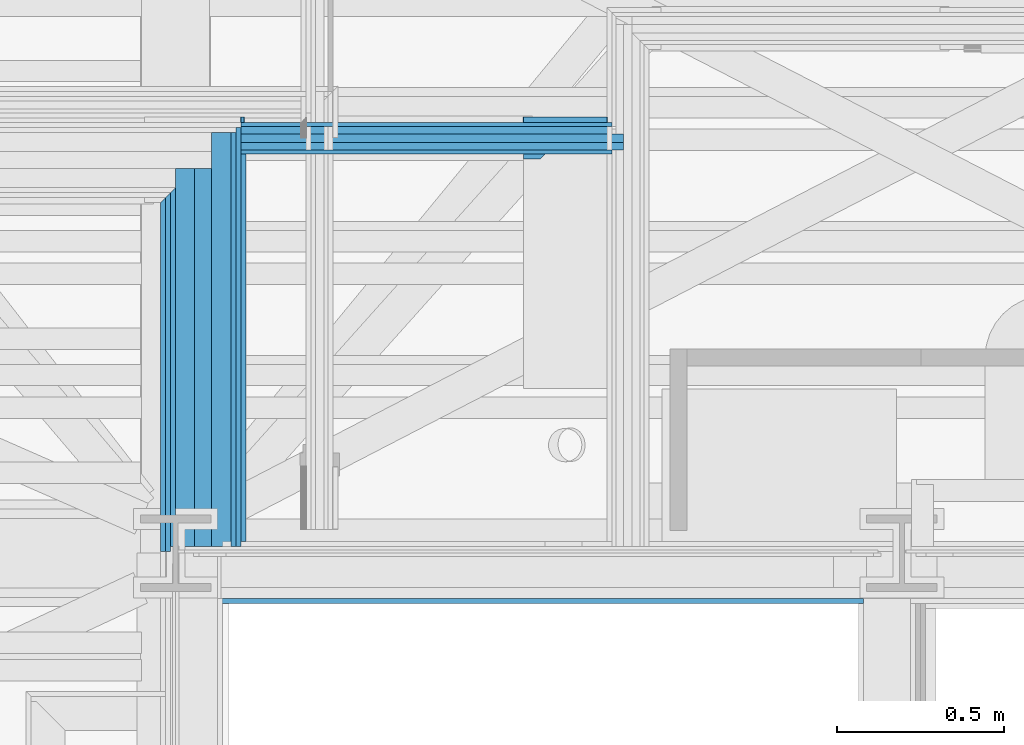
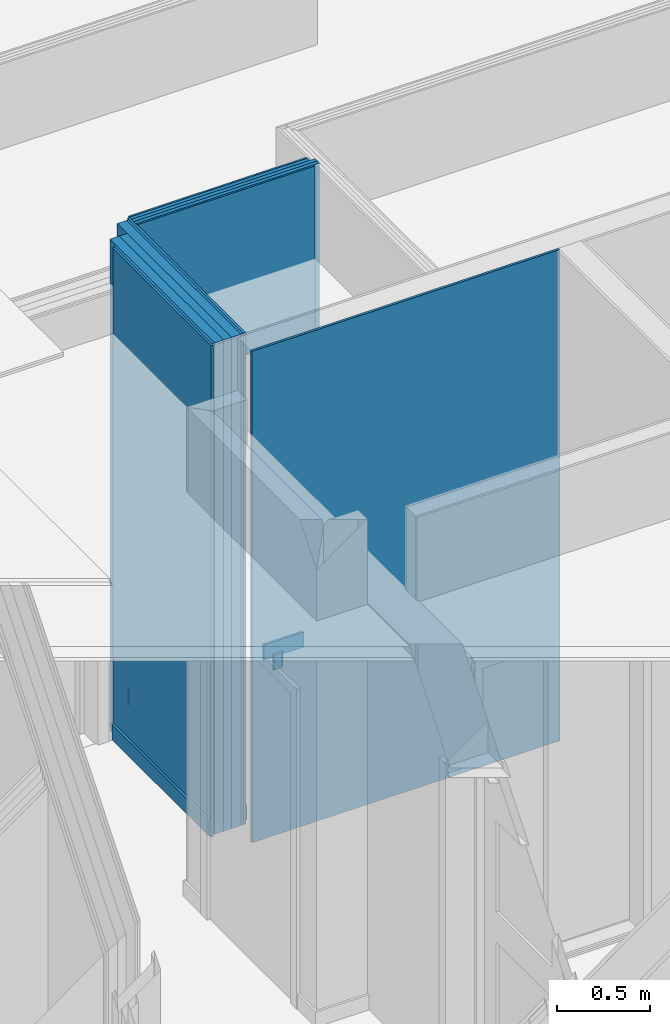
# One storey, part 43 of 183: 17 building element parts, 1 opening, 3 elements without a shape of their own.
"""IFC2X3 building model written with IfcOpenShell, lengths in metres."""

import ifcopenshell
import ifcopenshell.guid

model = None  # the IFC model being written
_history = None  # IfcOwnerHistory: only IFC2X3 demands one
_inside = {}  # id of a spatial element -> (the spatial element, [elements in it])
_under = {}  # id of a project, library or spatial element -> (it, [spatial elements below it])
_declared = {}  # id of a project -> (the project, [libraries it declares])
_typed = {}  # id of a type object -> (the type object, [elements of that type])
_made_of = {}  # id of a material, layer set ... -> (it, [elements and type objects made of it])


def new_model(schema):
    """Start an empty IFC model of exactly this schema.

    Asked for "IFC4X3", IfcOpenShell would pick the latest addendum, in which some entities
    have other attributes; the version numbers below select the first issue.
    IFC2X3 requires an IfcOwnerHistory on every rooted entity: one is made here for all.
    """
    global model, _history
    if schema == "IFC4X3":
        model = ifcopenshell.file(schema_version=(4, 3, 0, 0))
    else:
        model = ifcopenshell.file(schema=schema)
    _inside.clear()
    _under.clear()
    _declared.clear()
    _typed.clear()
    _made_of.clear()
    _history = None
    if model.schema == "IFC2X3":
        org = make("IfcOrganization", Name="unknown")
        user = make(
            "IfcPersonAndOrganization",
            ThePerson=make("IfcPerson", FamilyName="unknown"),
            TheOrganization=org,
        )
        app = make(
            "IfcApplication",
            ApplicationDeveloper=org,
            Version="unknown",
            ApplicationFullName="unknown",
            ApplicationIdentifier="unknown",
        )
        _history = make(
            "IfcOwnerHistory",
            OwningUser=user,
            OwningApplication=app,
            ChangeAction="ADDED",
            CreationDate=0,
        )
    return model


def make(cls, **values):
    """One entity of the class cls with the attributes given. An attribute that is None is left unset."""
    return model.create_entity(
        cls, **{name: value for name, value in values.items() if value is not None}
    )


def entity(cls, *values):
    """Any entity or typed value of the class cls, its attributes in the order of the schema. None: left unset."""
    e = model.create_entity(cls)
    for i, value in enumerate(values):
        if value is not None:
            e[i] = value
    return e


def rooted(cls, **values):
    """An entity with a GlobalId (a new one), such as an element, a storey or a relation."""
    return make(cls, GlobalId=ifcopenshell.guid.new(), OwnerHistory=_history, **values)


def si_unit(unit_type, name, prefix=None):
    """IfcSIUnit, for example si_unit("LENGTHUNIT", "METRE", prefix="MILLI")."""
    return make("IfcSIUnit", UnitType=unit_type, Prefix=prefix, Name=name)


def converted_unit(unit_type, name, factor, base, dimensions=None, offset=None):
    """IfcConversionBasedUnit, such as the inch: factor (a typed value) times the base unit."""
    return make(
        "IfcConversionBasedUnit"
        if offset is None
        else "IfcConversionBasedUnitWithOffset",
        ConversionOffset=offset,
        Dimensions=None
        if dimensions is None
        else entity("IfcDimensionalExponents", *dimensions),
        UnitType=unit_type,
        Name=name,
        ConversionFactor=make(
            "IfcMeasureWithUnit", ValueComponent=factor, UnitComponent=base
        ),
    )


def derived_unit(unit_type, elements):
    """IfcDerivedUnit: a product of units, each with its exponent."""
    return make(
        "IfcDerivedUnit",
        Elements=[
            make("IfcDerivedUnitElement", Unit=unit, Exponent=power)
            for unit, power in elements
        ],
        UnitType=unit_type,
    )


def money_unit(currency):
    """IfcMonetaryUnit."""
    return make("IfcMonetaryUnit", Currency=currency)


def assignment(units):
    """IfcUnitAssignment: the units of a project."""
    return None if units is None else make("IfcUnitAssignment", Units=units)


def point(xyz):
    """IfcCartesianPoint."""
    return None if xyz is None else make("IfcCartesianPoint", Coordinates=xyz)


def direction(xyz):
    """IfcDirection."""
    return None if xyz is None else make("IfcDirection", DirectionRatios=xyz)


def frame(location, z_axis=None, x_axis=None):
    """IfcAxis2Placement3D, a coordinate frame: its origin and axes. An axis left out is left unset."""
    return make(
        "IfcAxis2Placement3D",
        Location=point(location),
        Axis=direction(z_axis),
        RefDirection=direction(x_axis),
    )


def frame_2d(location, x_axis=None):
    """IfcAxis2Placement2D, a coordinate frame in the plane: its origin and x axis."""
    return make(
        "IfcAxis2Placement2D", Location=point(location), RefDirection=direction(x_axis)
    )


def origin_with_axes():
    """The frame at (0, 0, 0) with the z axis (0, 0, 1) and the x axis (1, 0, 0) written out."""
    return frame((0.0, 0.0, 0.0), z_axis=(0.0, 0.0, 1.0), x_axis=(1.0, 0.0, 0.0))


def place(relative_to, where):
    """IfcLocalPlacement: puts the frame where relative to a parent placement (None: the world)."""
    return make(
        "IfcLocalPlacement", PlacementRelTo=relative_to, RelativePlacement=where
    )


def context(
    kind, dimensions, precision=None, world=None, true_north=None, identifier=None
):
    """IfcGeometricRepresentationContext, for example the 3D "Model" context."""
    return make(
        "IfcGeometricRepresentationContext",
        ContextIdentifier=identifier,
        ContextType=kind,
        CoordinateSpaceDimension=dimensions,
        Precision=precision,
        WorldCoordinateSystem=world,
        TrueNorth=true_north,
    )


def subcontext(parent, identifier, kind, view, scale=None):
    """IfcGeometricRepresentationSubContext, for example "Body" below "Model"."""
    return make(
        "IfcGeometricRepresentationSubContext",
        ContextIdentifier=identifier,
        ContextType=kind,
        ParentContext=parent,
        TargetScale=scale,
        TargetView=view,
    )


def project(units=None, contexts=None):
    """IfcProject with its units and contexts."""
    return rooted(
        "IfcProject",
        Name="project",
        RepresentationContexts=contexts,
        UnitsInContext=assignment(units),
    )


def spatial(cls, under=None, at=None, **own):
    """A site, building, storey or space (cls), placed at a placement, below another one or the project."""
    s = rooted(cls, ObjectPlacement=at, **own)
    if under is not None:
        _under.setdefault(under.id(), (under, []))[1].append(s)
    return s


def polyline(points):
    """IfcPolyline through the points."""
    return make("IfcPolyline", Points=[point(p) for p in points])


def profile(cls, at=None, kind="AREA", **sizes):
    """A parametric profile (cls). Its sizes go by their IFC names, for example OverallWidth=200.0."""
    return make(cls, ProfileType=kind, Position=at, **sizes)


def rectangle(**sizes):
    """IfcRectangleProfileDef."""
    return profile("IfcRectangleProfileDef", **sizes)


def outline(outer, holes=None, kind="AREA"):
    """IfcArbitraryClosedProfileDef: a profile drawn as a closed curve; with holes, ...WithVoids."""
    if holes is None:
        return make("IfcArbitraryClosedProfileDef", ProfileType=kind, OuterCurve=outer)
    return make(
        "IfcArbitraryProfileDefWithVoids",
        ProfileType=kind,
        OuterCurve=outer,
        InnerCurves=holes,
    )


def extrude(swept, where, along, depth):
    """IfcExtrudedAreaSolid: the profile swept, set in the frame where, extruded along a direction by depth."""
    return make(
        "IfcExtrudedAreaSolid",
        SweptArea=swept,
        Position=where,
        ExtrudedDirection=direction(along),
        Depth=depth,
    )


def shape(context_of_items, identifier, shape_type, items):
    """IfcShapeRepresentation: the items that make up one representation, for example the "Body"."""
    return make(
        "IfcShapeRepresentation",
        ContextOfItems=context_of_items,
        RepresentationIdentifier=identifier,
        RepresentationType=shape_type,
        Items=items,
    )


def material(Name=None, Category=None):
    """IfcMaterial."""
    return make("IfcMaterial", Name=Name, Category=Category)


def made_of(thing, what):
    """Note that an element or type object is made of a material, layer set ...; save() writes the relation."""
    if what is not None:
        _made_of.setdefault(what.id(), (what, []))[1].append(thing)
    return thing


def type_object(cls, material=None, **own):
    """A type object (cls), such as IfcWallType, which elements share."""
    return made_of(rooted(cls, **own), material)


def element(
    cls,
    number,
    at=None,
    inside=None,
    cuts=None,
    type_object=None,
    material=None,
    context=None,
    identifier="Body",
    shape_type=None,
    held_by="IfcProductDefinitionShape",
    body=None,
    shapes=None,
    **own,
):
    """One element of the class cls, such as IfcWall. Its Tag is "e" and its number.

    at: its placement. inside: the storey or other place that contains it. cuts: it is an
    opening in that element (IfcRelVoidsElement). A single representation is given by context,
    identifier, shape_type and body (its items); several are given by shapes. held_by: the class
    of the entity that holds the representations. save() writes the other relations.
    """
    e = rooted(cls, Tag="e%d" % number, ObjectPlacement=at, **own)
    if body is not None:
        shapes = [shape(context, identifier, shape_type, body)]
    if shapes is not None:
        e.Representation = make(held_by, Representations=shapes)
    if inside is not None:
        _inside.setdefault(inside.id(), (inside, []))[1].append(e)
    if cuts is not None:
        rooted(
            "IfcRelVoidsElement", RelatingBuildingElement=cuts, RelatedOpeningElement=e
        )
    if type_object is not None:
        _typed.setdefault(type_object.id(), (type_object, []))[1].append(e)
    return made_of(e, material)


def aggregate(whole, parts):
    """IfcRelAggregates: a whole, such as a stair, and the parts it consists of."""
    return rooted("IfcRelAggregates", RelatingObject=whole, RelatedObjects=parts)


def save(model, path):
    """Write the relations noted so far, then the file.

    IfcRelAggregates (storeys below a building ...), IfcRelContainedInSpatialStructure (elements
    in a storey), IfcRelDefinesByType, IfcRelAssociatesMaterial and IfcRelDeclares: one each for
    every whole, place, type object, material and project.
    """
    for whole, parts in _under.values():
        aggregate(whole, parts)
    for where, things in _inside.values():
        rooted(
            "IfcRelContainedInSpatialStructure",
            RelatedElements=things,
            RelatingStructure=where,
        )
    for kind, things in _typed.values():
        rooted("IfcRelDefinesByType", RelatedObjects=things, RelatingType=kind)
    for what, things in _made_of.values():
        rooted("IfcRelAssociatesMaterial", RelatedObjects=things, RelatingMaterial=what)
    for by, libraries in _declared.values():
        rooted("IfcRelDeclares", RelatingContext=by, RelatedDefinitions=libraries)
    model.write(path)


model = new_model("IFC2X3")

# Units and contexts
model_context = context("Model", 3, precision=1e-05, world=origin_with_axes(), true_north=direction((0.0, 1.0)))
body_context = subcontext(model_context, "Body", "Model", "MODEL_VIEW", scale=1.0)
ifc_project = project(units=[si_unit("LENGTHUNIT", "METRE"), si_unit("AREAUNIT", "SQUARE_METRE"), si_unit("VOLUMEUNIT", "CUBIC_METRE"), si_unit("ABSORBEDDOSEUNIT", "GRAY"), si_unit("AMOUNTOFSUBSTANCEUNIT", "MOLE"), si_unit("DOSEEQUIVALENTUNIT", "SIEVERT"), si_unit("ELECTRICCAPACITANCEUNIT", "FARAD"), si_unit("ELECTRICCHARGEUNIT", "COULOMB"), si_unit("ELECTRICCONDUCTANCEUNIT", "SIEMENS"), si_unit("ELECTRICCURRENTUNIT", "AMPERE"), si_unit("ELECTRICRESISTANCEUNIT", "OHM"), si_unit("ELECTRICVOLTAGEUNIT", "VOLT"), si_unit("ENERGYUNIT", "JOULE"), si_unit("FORCEUNIT", "NEWTON"), si_unit("FREQUENCYUNIT", "HERTZ"), si_unit("ILLUMINANCEUNIT", "LUX"), si_unit("INDUCTANCEUNIT", "HENRY"), si_unit("LUMINOUSFLUXUNIT", "LUMEN"), si_unit("LUMINOUSINTENSITYUNIT", "CANDELA"), si_unit("MAGNETICFLUXDENSITYUNIT", "TESLA"), si_unit("MAGNETICFLUXUNIT", "WEBER"), si_unit("MASSUNIT", "GRAM"), converted_unit("PLANEANGLEUNIT", "degree", entity("IfcReal", 0.0174532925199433), si_unit("PLANEANGLEUNIT", "RADIAN"), dimensions=[0, 0, 0, 0, 0, 0, 0]), si_unit("POWERUNIT", "WATT"), si_unit("PRESSUREUNIT", "PASCAL"), si_unit("RADIOACTIVITYUNIT", "BECQUEREL"), si_unit("SOLIDANGLEUNIT", "STERADIAN"), si_unit("THERMODYNAMICTEMPERATUREUNIT", "KELVIN"), si_unit("TIMEUNIT", "SECOND"), derived_unit("ACCELERATIONUNIT", [(si_unit("LENGTHUNIT", "METRE"), 1), (si_unit("TIMEUNIT", "SECOND"), -2)]), derived_unit("ANGULARVELOCITYUNIT", [(converted_unit("PLANEANGLEUNIT", "degree", entity("IfcReal", 0.0174532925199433), si_unit("PLANEANGLEUNIT", "RADIAN"), dimensions=[0, 0, 0, 0, 0, 0, 0]), 1), (si_unit("TIMEUNIT", "SECOND"), -1)]), derived_unit("CURVATUREUNIT", [(converted_unit("PLANEANGLEUNIT", "degree", entity("IfcReal", 0.0174532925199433), si_unit("PLANEANGLEUNIT", "RADIAN"), dimensions=[0, 0, 0, 0, 0, 0, 0]), 1), (si_unit("LENGTHUNIT", "METRE"), -1)]), derived_unit("DYNAMICVISCOSITYUNIT", [(si_unit("PRESSUREUNIT", "PASCAL"), 1), (si_unit("TIMEUNIT", "SECOND"), 1)]), derived_unit("HEATFLUXDENSITYUNIT", [(si_unit("POWERUNIT", "WATT"), 1), (si_unit("LENGTHUNIT", "METRE"), -2)]), derived_unit("HEATINGVALUEUNIT", [(si_unit("ENERGYUNIT", "JOULE"), 1), (si_unit("MASSUNIT", "GRAM"), -1)]), derived_unit("INTEGERCOUNTRATEUNIT", [(si_unit("TIMEUNIT", "SECOND"), -1)]), derived_unit("IONCONCENTRATIONUNIT", [(si_unit("MASSUNIT", "GRAM"), 1), (si_unit("VOLUMEUNIT", "CUBIC_METRE"), -1)]), derived_unit("ISOTHERMALMOISTURECAPACITYUNIT", [(si_unit("VOLUMEUNIT", "CUBIC_METRE"), 1), (si_unit("MASSUNIT", "GRAM"), -1)]), derived_unit("KINEMATICVISCOSITYUNIT", [(si_unit("AREAUNIT", "SQUARE_METRE"), 1), (si_unit("TIMEUNIT", "SECOND"), -1)]), derived_unit("LINEARFORCEUNIT", [(si_unit("FORCEUNIT", "NEWTON"), 1), (si_unit("LENGTHUNIT", "METRE"), -1)]), derived_unit("LINEARMOMENTUNIT", [(si_unit("FORCEUNIT", "NEWTON"), 1), (si_unit("LENGTHUNIT", "METRE"), -1)]), derived_unit("LINEARSTIFFNESSUNIT", [(si_unit("FORCEUNIT", "NEWTON"), 1), (si_unit("LENGTHUNIT", "METRE"), -1)]), derived_unit("LINEARVELOCITYUNIT", [(si_unit("LENGTHUNIT", "METRE"), 1), (si_unit("TIMEUNIT", "SECOND"), -1)]), derived_unit("LUMINOUSINTENSITYDISTRIBUTIONUNIT", [(si_unit("LUMINOUSINTENSITYUNIT", "CANDELA"), 1), (si_unit("LUMINOUSFLUXUNIT", "LUMEN"), -1)]), derived_unit("MASSDENSITYUNIT", [(si_unit("MASSUNIT", "GRAM"), 1), (si_unit("VOLUMEUNIT", "CUBIC_METRE"), -1)]), derived_unit("MASSFLOWRATEUNIT", [(si_unit("MASSUNIT", "GRAM"), 1), (si_unit("TIMEUNIT", "SECOND"), -1)]), derived_unit("MASSPERLENGTHUNIT", [(si_unit("MASSUNIT", "GRAM"), 1), (si_unit("LENGTHUNIT", "METRE"), -1)]), derived_unit("MODULUSOFELASTICITYUNIT", [(si_unit("FORCEUNIT", "NEWTON"), 1), (si_unit("AREAUNIT", "SQUARE_METRE"), -1)]), derived_unit("MODULUSOFLINEARSUBGRADEREACTIONUNIT", [(si_unit("FORCEUNIT", "NEWTON"), 1), (si_unit("LENGTHUNIT", "METRE"), -2)]), derived_unit("MODULUSOFROTATIONALSUBGRADEREACTIONUNIT", [(si_unit("FORCEUNIT", "NEWTON"), 1), (si_unit("LENGTHUNIT", "METRE"), 1)]), derived_unit("MODULUSOFSUBGRADEREACTIONUNIT", [(si_unit("FORCEUNIT", "NEWTON"), 1), (si_unit("VOLUMEUNIT", "CUBIC_METRE"), -1)]), derived_unit("MOISTUREDIFFUSIVITYUNIT", [(si_unit("VOLUMEUNIT", "CUBIC_METRE"), 1), (si_unit("TIMEUNIT", "SECOND"), -1)]), derived_unit("MOLECULARWEIGHTUNIT", [(si_unit("MASSUNIT", "GRAM"), 1), (si_unit("AMOUNTOFSUBSTANCEUNIT", "MOLE"), -1)]), derived_unit("PLANARFORCEUNIT", [(si_unit("FORCEUNIT", "NEWTON"), 1), (si_unit("LENGTHUNIT", "METRE"), -2)]), derived_unit("ROTATIONALFREQUENCYUNIT", [(si_unit("TIMEUNIT", "SECOND"), -1)]), derived_unit("ROTATIONALMASSUNIT", [(si_unit("MASSUNIT", "GRAM"), 1), (si_unit("LENGTHUNIT", "METRE"), 2)]), derived_unit("ROTATIONALSTIFFNESSUNIT", [(si_unit("FORCEUNIT", "NEWTON"), 1), (si_unit("LENGTHUNIT", "METRE"), 1), (converted_unit("PLANEANGLEUNIT", "degree", entity("IfcReal", 0.0174532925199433), si_unit("PLANEANGLEUNIT", "RADIAN"), dimensions=[0, 0, 0, 0, 0, 0, 0]), -1)]), derived_unit("SECTIONAREAINTEGRALUNIT", [(si_unit("LENGTHUNIT", "METRE"), 5)]), derived_unit("SECTIONMODULUSUNIT", [(si_unit("LENGTHUNIT", "METRE"), 3)]), derived_unit("SHEARMODULUSUNIT", [(si_unit("FORCEUNIT", "NEWTON"), 1), (si_unit("AREAUNIT", "SQUARE_METRE"), -1)]), derived_unit("SOUNDPOWERUNIT", [(si_unit("ENERGYUNIT", "JOULE"), 1), (si_unit("TIMEUNIT", "SECOND"), -1)]), derived_unit("SPECIFICHEATCAPACITYUNIT", [(si_unit("FORCEUNIT", "NEWTON"), 1), (si_unit("MASSUNIT", "GRAM"), -1), (si_unit("THERMODYNAMICTEMPERATUREUNIT", "KELVIN"), -1)]), derived_unit("TEMPERATUREGRADIENTUNIT", [(si_unit("THERMODYNAMICTEMPERATUREUNIT", "KELVIN"), 1), (si_unit("LENGTHUNIT", "METRE"), -1)]), derived_unit("THERMALADMITTANCEUNIT", [(si_unit("POWERUNIT", "WATT"), 1), (si_unit("AREAUNIT", "SQUARE_METRE"), -1), (si_unit("THERMODYNAMICTEMPERATUREUNIT", "KELVIN"), -1)]), derived_unit("THERMALCONDUCTANCEUNIT", [(si_unit("POWERUNIT", "WATT"), 1), (si_unit("LENGTHUNIT", "METRE"), -1), (si_unit("THERMODYNAMICTEMPERATUREUNIT", "KELVIN"), -1)]), derived_unit("THERMALEXPANSIONCOEFFICIENTUNIT", [(si_unit("THERMODYNAMICTEMPERATUREUNIT", "KELVIN"), -1)]), derived_unit("THERMALRESISTANCEUNIT", [(si_unit("AREAUNIT", "SQUARE_METRE"), 1), (si_unit("POWERUNIT", "WATT"), -1)]), derived_unit("THERMALTRANSMITTANCEUNIT", [(si_unit("POWERUNIT", "WATT"), 1), (si_unit("AREAUNIT", "SQUARE_METRE"), -1), (si_unit("THERMODYNAMICTEMPERATUREUNIT", "KELVIN"), -1)]), derived_unit("TORQUEUNIT", [(si_unit("FORCEUNIT", "NEWTON"), 1), (si_unit("LENGTHUNIT", "METRE"), 1)]), derived_unit("VAPORPERMEABILITYUNIT", [(si_unit("MASSUNIT", "GRAM"), 1), (si_unit("TIMEUNIT", "SECOND"), -1)]), derived_unit("VOLUMETRICFLOWRATEUNIT", [(si_unit("VOLUMEUNIT", "CUBIC_METRE"), 1), (si_unit("TIMEUNIT", "SECOND"), -1)]), derived_unit("WARPINGCONSTANTUNIT", [(si_unit("LENGTHUNIT", "METRE"), 6)]), derived_unit("WARPINGMOMENTUNIT", [(si_unit("FORCEUNIT", "NEWTON"), 1), (si_unit("LENGTHUNIT", "METRE"), 2)]), money_unit("GBP")], contexts=[model_context])

# Site, building, storey
site_placement = place(None, origin_with_axes())
site = spatial("IfcSite", under=ifc_project, at=site_placement, Name="Site", CompositionType="ELEMENT")
building_placement = place(site_placement, origin_with_axes())
building = spatial("IfcBuilding", under=site, at=building_placement, Name="Building01", CompositionType="ELEMENT")
storey_placement = place(building_placement, frame((0.0, 0.0, 5.15), z_axis=(0.0, 0.0, 1.0), x_axis=(1.0, 0.0, 0.0)))
storey = spatial("IfcBuildingStorey", under=building, at=storey_placement, Name="1F", CompositionType="ELEMENT", Elevation=5.15)

# Wall, opening, building element parts
wall_type_1 = type_object("IfcWallType", Name="SHE_A-Walls_Type05a_Partition_95mm_tall", PredefinedType="NOTDEFINED")
wall_1_placement = place(storey_placement, frame((10.428871, 10.052704, 0.0), z_axis=(0.0, 0.0, 1.0), x_axis=(-1.0, 0.0, 0.0)))
wall_1 = element("IfcWall", 1, at=wall_1_placement, inside=storey, type_object=wall_type_1, Name="5A", ObjectType="SHE_A-Walls_Type05a_Partition_95mm_tall")
opening_placement = place(wall_1_placement, frame((0.3, -0.05, 0.0), z_axis=(0.0, 0.0, 1.0), x_axis=(1.0, 0.0, 0.0)))
element("IfcOpeningElement", 2, at=opening_placement, cuts=wall_1, Name="Opening", ObjectType="Opening", context=body_context, shape_type="SweptSolid", body=[
    extrude(rectangle(XDim=0.834, YDim=2.142, at=frame_2d((-0.417, 1.071), x_axis=(1.0, 0.0))), frame((0.0, 0.0, 0.0), z_axis=(0.0, 1.0, 0.0), x_axis=(-1.0, 0.0, 0.0)), (0.0, 0.0, 1.0), 0.125),
])
ifc_material_1 = material(Name="A_BSUK_Walls_Timber")
placement_1 = place(wall_1_placement, origin_with_axes())
building_element_part_1 = element("IfcBuildingElementPart", 3, at=placement_1, material=ifc_material_1, Name="1", context=body_context, shape_type="SweptSolid", body=[
    extrude(rectangle(XDim=0.015, YDim=1.093871, at=frame_2d((0.596935, -0.0425), x_axis=(0.0, -1.0))), frame((0.0, 0.0, 0.015), z_axis=(0.0, 0.0, 1.0), x_axis=(1.0, 0.0, 0.0)), (0.0, 0.0, 1.0), 0.1),
])
ifc_material_2 = material(Name="A_BSUK_WallInternal_Finishes_Plasterboard")
building_element_part_2 = element("IfcBuildingElementPart", 4, at=placement_1, material=ifc_material_2, Name="2", context=body_context, shape_type="SweptSolid", body=[
    extrude(rectangle(XDim=1.108871, YDim=0.012, at=frame_2d((0.589435, -0.029), x_axis=(-1.0, 0.0))), origin_with_axes(), (0.0, 0.0, 1.0), 3.24),
])
ifc_material_3 = material(Name="Air Cavity")
building_element_part_3 = element("IfcBuildingElementPart", 5, at=placement_1, material=ifc_material_3, Name="3", context=body_context, shape_type="SweptSolid", body=[
    extrude(rectangle(XDim=1.108871, YDim=0.023, at=frame_2d((0.589435, -0.0115), x_axis=(-1.0, 0.0))), origin_with_axes(), (0.0, 0.0, 1.0), 3.24),
])
ifc_material_4 = material(Name="A_BSUK_Insulation")
building_element_part_4 = element("IfcBuildingElementPart", 6, at=placement_1, material=ifc_material_4, Name="4", context=body_context, shape_type="SweptSolid", body=[
    extrude(rectangle(XDim=1.143871, YDim=0.025, at=frame_2d((0.571935, 0.0125), x_axis=(-1.0, 0.0))), origin_with_axes(), (0.0, 0.0, 1.0), 3.24),
])
building_element_part_5 = element("IfcBuildingElementPart", 7, at=placement_1, material=ifc_material_3, Name="5", context=body_context, shape_type="SweptSolid", body=[
    extrude(rectangle(XDim=1.143871, YDim=0.023, at=frame_2d((0.571935, 0.0365), x_axis=(-1.0, 0.0))), origin_with_axes(), (0.0, 0.0, 1.0), 3.24),
])
building_element_part_6 = element("IfcBuildingElementPart", 8, at=placement_1, material=ifc_material_2, Name="6", context=body_context, shape_type="SweptSolid", body=[
    extrude(rectangle(XDim=1.108871, YDim=0.012, at=frame_2d((0.589435, 0.054), x_axis=(-1.0, 0.0))), origin_with_axes(), (0.0, 0.0, 1.0), 3.24),
])
building_element_part_7 = element("IfcBuildingElementPart", 9, at=placement_1, material=ifc_material_1, Name="7", context=body_context, shape_type="SweptSolid", body=[
    extrude(outline(polyline([(1.128871, 0.075), (0.25, 0.075), (0.235, 0.06), (1.128871, 0.06), (1.128871, 0.075)])), frame((0.0, 0.0, 0.015), z_axis=(0.0, 0.0, 1.0), x_axis=(1.0, 0.0, 0.0)), (0.0, 0.0, 1.0), 0.1),
])
aggregate(wall_1, [building_element_part_1, building_element_part_2, building_element_part_3, building_element_part_4, building_element_part_5, building_element_part_6, building_element_part_7])

# Wall, building element part
wall_type_2 = type_object("IfcWallType", Name="SHE_A-Walls_Type03a_BlockworkWall_170mm", PredefinedType="NOTDEFINED")
wall_2_placement = place(storey_placement, frame((17.75, 8.805, 0.0), z_axis=(0.0, 0.0, 1.0), x_axis=(-1.0, 0.0, 0.0)))
wall_2 = element("IfcWall", 10, at=wall_2_placement, inside=storey, type_object=wall_type_2, Name="4B", ObjectType="SHE_A-Walls_Type03a_BlockworkWall_170mm")
ifc_material_5 = material(Name="A_BSUK_WallInternal_Finishes_Plaster")
building_element_part_8_placement = place(wall_2_placement, origin_with_axes())
building_element_part_8 = element("IfcBuildingElementPart", 11, at=building_element_part_8_placement, material=ifc_material_5, Name="10", context=body_context, shape_type="SweptSolid", body=[
    extrude(rectangle(XDim=1.92, YDim=0.015, at=frame_2d((7.565, 0.1475), x_axis=(-1.0, 0.0))), origin_with_axes(), (0.0, 0.0, 1.0), 3.24),
])
aggregate(wall_2, [building_element_part_8])

# Wall, building element parts
wall_type_3 = type_object("IfcWallType", Name="SHE_A-Walls_Type01c_Partywall_225mm_twin_tall", PredefinedType="NOTDEFINED")
wall_3_placement = place(storey_placement, frame((9.147, 8.82, 0.0), z_axis=(0.0, 0.0, 1.0), x_axis=(0.0, 1.0, 0.0)))
wall_3 = element("IfcWall", 12, at=wall_3_placement, inside=storey, type_object=wall_type_3, Name="1C", ObjectType="SHE_A-Walls_Type01c_Partywall_225mm_twin_tall")
placement_2 = place(wall_3_placement, origin_with_axes())
building_element_part_9 = element("IfcBuildingElementPart", 13, at=placement_2, material=ifc_material_1, Name="1", context=body_context, shape_type="SweptSolid", body=[
    extrude(rectangle(XDim=1.157704, YDim=0.015, at=frame_2d((0.593852, -0.1455), x_axis=(-1.0, 0.0))), frame((0.0, 0.0, 0.015), z_axis=(0.0, 0.0, 1.0), x_axis=(1.0, 0.0, 0.0)), (0.0, 0.0, 1.0), 0.1),
])
building_element_part_10 = element("IfcBuildingElementPart", 14, at=placement_2, material=ifc_material_2, Name="2", context=body_context, shape_type="SweptSolid", body=[
    extrude(rectangle(XDim=1.252704, YDim=0.015, at=frame_2d((0.626352, -0.1305), x_axis=(-1.0, 0.0))), origin_with_axes(), (0.0, 0.0, 1.0), 3.24),
])
building_element_part_11 = element("IfcBuildingElementPart", 15, at=placement_2, material=ifc_material_2, Name="3", context=body_context, shape_type="SweptSolid", body=[
    extrude(rectangle(XDim=1.237704, YDim=0.015, at=frame_2d((0.618852, -0.1155), x_axis=(-1.0, 0.0))), origin_with_axes(), (0.0, 0.0, 1.0), 3.24),
])
building_element_part_12 = element("IfcBuildingElementPart", 16, at=placement_2, material=ifc_material_3, Name="4", context=body_context, shape_type="SweptSolid", body=[
    extrude(rectangle(XDim=1.237704, YDim=0.058, at=frame_2d((0.618852, -0.079), x_axis=(-1.0, 0.0))), origin_with_axes(), (0.0, 0.0, 1.0), 3.24),
])
building_element_part_13 = element("IfcBuildingElementPart", 17, at=placement_2, material=ifc_material_4, Name="5", context=body_context, shape_type="SweptSolid", body=[
    extrude(rectangle(XDim=1.129704, YDim=0.05, at=frame_2d((0.564852, -0.025), x_axis=(-1.0, 0.0))), origin_with_axes(), (0.0, 0.0, 1.0), 3.24),
])
building_element_part_14 = element("IfcBuildingElementPart", 18, at=placement_2, material=ifc_material_3, Name="6", context=body_context, shape_type="SweptSolid", body=[
    extrude(rectangle(XDim=1.129704, YDim=0.057, at=frame_2d((0.564852, 0.0285), x_axis=(-1.0, 0.0))), origin_with_axes(), (0.0, 0.0, 1.0), 3.24),
])
building_element_part_15 = element("IfcBuildingElementPart", 19, at=placement_2, material=ifc_material_2, Name="7", context=body_context, shape_type="SweptSolid", body=[
    extrude(outline(polyline([(1.057704, 0.072), (0.0, 0.072), (0.0, 0.057), (1.072704, 0.057), (1.057704, 0.072)])), origin_with_axes(), (0.0, 0.0, 1.0), 3.24),
])
building_element_part_16 = element("IfcBuildingElementPart", 20, at=placement_2, material=ifc_material_2, Name="8", context=body_context, shape_type="SweptSolid", body=[
    extrude(outline(polyline([(1.042704, 0.087), (-0.015, 0.087), (-0.015, 0.072), (1.057704, 0.072), (1.042704, 0.087)])), origin_with_axes(), (0.0, 0.0, 1.0), 3.24),
])
building_element_part_17 = element("IfcBuildingElementPart", 21, at=placement_2, material=ifc_material_1, Name="9", context=body_context, shape_type="SweptSolid", body=[
    extrude(outline(polyline([(1.027704, 0.102), (-0.015, 0.102), (-0.015, 0.087), (1.042704, 0.087), (1.027704, 0.102)])), frame((0.0, 0.0, 0.015), z_axis=(0.0, 0.0, 1.0), x_axis=(1.0, 0.0, 0.0)), (0.0, 0.0, 1.0), 0.1),
])
aggregate(wall_3, [building_element_part_9, building_element_part_10, building_element_part_11, building_element_part_12, building_element_part_13, building_element_part_14, building_element_part_15, building_element_part_16, building_element_part_17])

save(model, "model.ifc")
